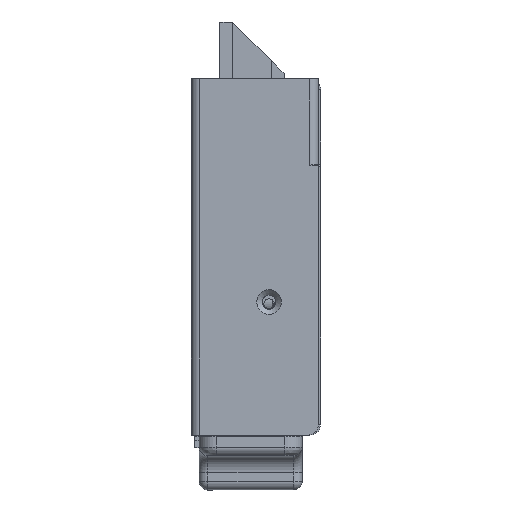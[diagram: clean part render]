
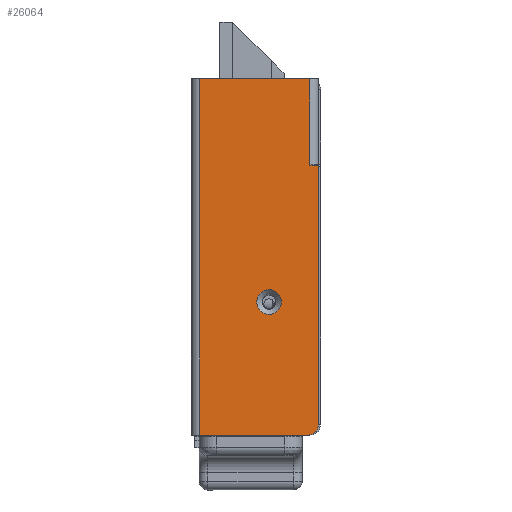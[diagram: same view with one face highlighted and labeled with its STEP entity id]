
A CAD part, left-side view. The second image highlights one B-rep face of the part: STEP entity #26064.
In plain terms, the highlighted planar face has unit normal (-1, 0, 0).
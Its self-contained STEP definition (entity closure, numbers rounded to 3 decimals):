
#731=FACE_BOUND('',#4030,.T.);
#1377=PLANE('',#28315);
#2544=FACE_OUTER_BOUND('',#4029,.T.);
#4029=EDGE_LOOP('',(#22107,#22108,#22109,#22110,#22111,#22112,#22113,#22114));
#4030=EDGE_LOOP('',(#22115));
#5581=CIRCLE('',#28303,2.5);
#5587=CIRCLE('',#28316,2.85);
#6972=LINE('',#40151,#9243);
#7695=LINE('',#46031,#9966);
#7702=LINE('',#46071,#9973);
#7707=LINE('',#46079,#9978);
#7715=LINE('',#46096,#9986);
#7724=LINE('',#46117,#9995);
#7732=LINE('',#46145,#10003);
#9243=VECTOR('',#32138,10.);
#9966=VECTOR('',#34309,10.);
#9973=VECTOR('',#34344,10.);
#9978=VECTOR('',#34353,10.);
#9986=VECTOR('',#34367,10.);
#9995=VECTOR('',#34396,10.);
#10003=VECTOR('',#34432,10.);
#11574=VERTEX_POINT('',#40148);
#11575=VERTEX_POINT('',#40150);
#12268=VERTEX_POINT('',#46030);
#12273=VERTEX_POINT('',#46067);
#12275=VERTEX_POINT('',#46076);
#12281=VERTEX_POINT('',#46095);
#12283=VERTEX_POINT('',#46114);
#12284=VERTEX_POINT('',#46119);
#12290=VERTEX_POINT('',#46146);
#14544=EDGE_CURVE('',#11574,#11575,#6972,.T.);
#15671=EDGE_CURVE('',#11574,#12268,#7695,.T.);
#15686=EDGE_CURVE('',#11575,#12273,#7702,.T.);
#15691=EDGE_CURVE('',#12273,#12275,#7707,.T.);
#15699=EDGE_CURVE('',#12281,#12275,#7715,.T.);
#15710=EDGE_CURVE('',#12283,#12281,#7724,.T.);
#15711=EDGE_CURVE('',#12283,#12284,#5581,.T.);
#15724=EDGE_CURVE('',#12268,#12284,#7732,.T.);
#15725=EDGE_CURVE('',#12290,#12290,#5587,.T.);
#22107=ORIENTED_EDGE('',*,*,#15711,.F.);
#22108=ORIENTED_EDGE('',*,*,#15710,.T.);
#22109=ORIENTED_EDGE('',*,*,#15699,.T.);
#22110=ORIENTED_EDGE('',*,*,#15691,.F.);
#22111=ORIENTED_EDGE('',*,*,#15686,.F.);
#22112=ORIENTED_EDGE('',*,*,#14544,.F.);
#22113=ORIENTED_EDGE('',*,*,#15671,.T.);
#22114=ORIENTED_EDGE('',*,*,#15724,.T.);
#22115=ORIENTED_EDGE('',*,*,#15725,.F.);
#26064=ADVANCED_FACE('',(#2544,#731),#1377,.F.);
#28303=AXIS2_PLACEMENT_3D('',#46120,#34399,#34400);
#28315=AXIS2_PLACEMENT_3D('',#46144,#34430,#34431);
#28316=AXIS2_PLACEMENT_3D('',#46147,#34433,#34434);
#32138=DIRECTION('',(0.,-1.,0.));
#34309=DIRECTION('',(0.,0.,-1.));
#34344=DIRECTION('',(0.,0.,-1.));
#34353=DIRECTION('',(0.,0.,-1.));
#34367=DIRECTION('',(0.,1.,0.));
#34396=DIRECTION('',(0.,0.,1.));
#34399=DIRECTION('center_axis',(1.,0.,0.));
#34400=DIRECTION('ref_axis',(0.,-0.707,-0.707));
#34430=DIRECTION('center_axis',(1.,0.,0.));
#34431=DIRECTION('ref_axis',(0.,0.,
-1.));
#34432=DIRECTION('',(0.,-1.,0.));
#34433=DIRECTION('center_axis',(-1.,0.,0.));
#34434=DIRECTION('ref_axis',(0.,0.,
-1.));
#40148=CARTESIAN_POINT('',(-169.184,-39.583,71.343));
#40150=CARTESIAN_POINT('',(-169.184,-65.183,71.343));
#40151=CARTESIAN_POINT('',(-169.184,-66.817,71.343));
#46030=CARTESIAN_POINT('',(-169.184,-39.583,-11.657));
#46031=CARTESIAN_POINT('',(-169.184,-39.583,29.843));
#46067=CARTESIAN_POINT('',(-169.184,-65.183,51.343));
#46071=CARTESIAN_POINT('',(-169.184,-65.183,29.843));
#46076=CARTESIAN_POINT('',(-169.184,-65.183,51.143));
#46079=CARTESIAN_POINT('',(-169.184,-65.183,29.843));
#46095=CARTESIAN_POINT('',(-169.184,-67.183,51.143));
#46096=CARTESIAN_POINT('',(-169.184,-67.183,51.143));
#46114=CARTESIAN_POINT('',(-169.184,-67.183,-9.157));
#46117=CARTESIAN_POINT('',(-169.184,-67.183,-11.657));
#46119=CARTESIAN_POINT('',(-169.184,-64.683,-11.657));
#46120=CARTESIAN_POINT('Origin',(-169.184,-64.683,-9.157));
#46144=CARTESIAN_POINT('Origin',(-169.184,27.55,29.843));
#46145=CARTESIAN_POINT('',(-169.184,-65.183,-11.657));
#46146=CARTESIAN_POINT('',(-169.184,-55.683,22.193));
#46147=CARTESIAN_POINT('Origin',(-169.184,-55.683,19.343));
